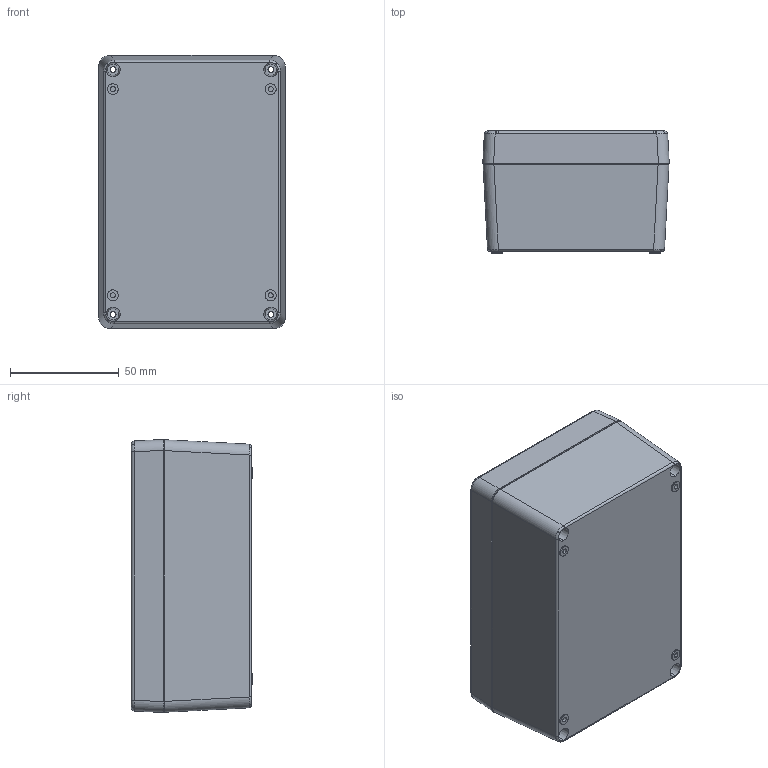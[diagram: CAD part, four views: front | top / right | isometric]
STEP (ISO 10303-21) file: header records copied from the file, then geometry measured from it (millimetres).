
FILE_DESCRIPTION (( 'STEP AP214' ), '1' );
FILE_NAME ('BEN-30.STEP', '2020-02-26T14:53:45', ( 'Rudy' ), ( '' ), 'SwSTEP 2.0', 'SolidWorks 2014', '' );
FILE_SCHEMA (( 'AUTOMOTIVE_DESIGN' ));
Length unit declared in the file: millimetre
Products named in the file (5): BEN-30 Bottom; BEN-30; BEN-30 Seal; BEN-30 Top; Thread insert
Assembly tree (7 placements, depth 2):
  BEN-30
    BEN-30 Bottom
    Thread insert  x4
    BEN-30 Top
    BEN-30 Seal
Bounding box: 85.9 x 56.1 x 125.8 mm (x, y, z)
Volume: 130639.2 mm3; surface area: 93659.2 mm2
Topology: 7 solids, 7 shells, 478 faces, 1143 edges, 722 vertices
Faces by surface type: cylinder 204, plane 145, bspline 72, torus 32, cone 24, sphere 1
Entity records: 14966 total; most frequent: CARTESIAN_POINT 4388, ORIENTED_EDGE 2208, DIRECTION 2112, EDGE_CURVE 1104, AXIS2_PLACEMENT_3D 810, VERTEX_POINT 696, EDGE_LOOP 524, VECTOR 492
